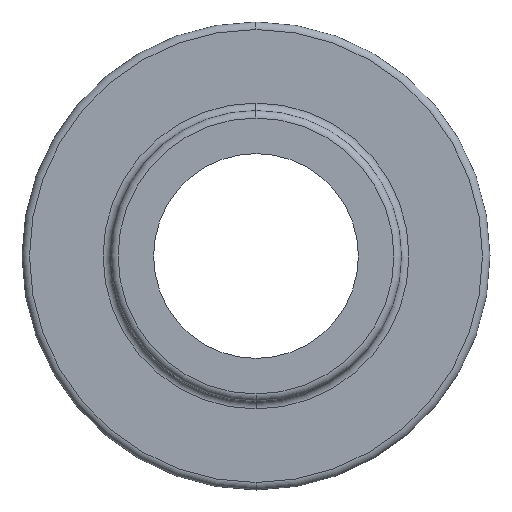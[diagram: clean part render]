
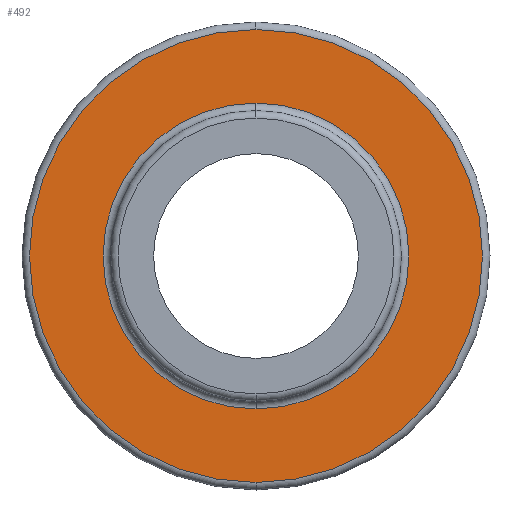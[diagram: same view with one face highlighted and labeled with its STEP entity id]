
A CAD part, left-side view. The second image highlights one B-rep face of the part: STEP entity #492.
In plain terms, the highlighted planar face has unit normal (-1, 0, 0).
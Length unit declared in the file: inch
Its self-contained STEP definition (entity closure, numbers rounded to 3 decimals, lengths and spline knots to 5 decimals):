
#3 = EDGE_CURVE ( 'NONE', #172, #736, #515, .T. ) ;
#11 = AXIS2_PLACEMENT_3D ( 'NONE', #166, #673, #446 ) ;
#14 = DIRECTION ( 'NONE',  ( 0., 0., -1. ) ) ;
#20 = DIRECTION ( 'NONE',  ( 1., 0., 0. ) ) ;
#42 = ORIENTED_EDGE ( 'NONE', *, *, #620, .F. ) ;
#81 = CARTESIAN_POINT ( 'NONE',  ( -0.589, 0., 0. ) ) ;
#83 = DIRECTION ( 'NONE',  ( -1., 0., 0. ) ) ;
#90 = PLANE ( 'NONE',  #674 ) ;
#142 = FACE_BOUND ( 'NONE', #358, .T. ) ;
#158 = CARTESIAN_POINT ( 'NONE',  ( -0.589, 0., 0.968 ) ) ;
#166 = CARTESIAN_POINT ( 'NONE',  ( -0.589, 0., 0. ) ) ;
#172 = VERTEX_POINT ( 'NONE', #548 ) ;
#193 = ORIENTED_EDGE ( 'NONE', *, *, #321, .T. ) ;
#202 = EDGE_LOOP ( 'NONE', ( #42, #732 ) ) ;
#230 = CIRCLE ( 'NONE', #685, 0.968 ) ;
#236 = AXIS2_PLACEMENT_3D ( 'NONE', #81, #20, #14 ) ;
#270 = CARTESIAN_POINT ( 'NONE',  ( -0.589, 0.6535, 0. ) ) ;
#279 = CARTESIAN_POINT ( 'NONE',  ( -0.589, 0., 0. ) ) ;
#321 = EDGE_CURVE ( 'NONE', #736, #172, #559, .T. ) ;
#342 = EDGE_CURVE ( 'NONE', #665, #649, #230, .T. ) ;
#347 = CARTESIAN_POINT ( 'NONE',  ( -0.589, 0., -0.6535 ) ) ;
#358 = EDGE_LOOP ( 'NONE', ( #193, #478 ) ) ;
#391 = CARTESIAN_POINT ( 'NONE',  ( -0.589, 0., 0. ) ) ;
#426 = DIRECTION ( 'NONE',  ( 0., 0., 1. ) ) ;
#439 = FACE_OUTER_BOUND ( 'NONE', #202, .T. ) ;
#446 = DIRECTION ( 'NONE',  ( 0., 0., -1. ) ) ;
#478 = ORIENTED_EDGE ( 'NONE', *, *, #3, .T. ) ;
#492 = ADVANCED_FACE ( 'NONE', ( #142, #439 ), #90, .T. ) ;
#507 = DIRECTION ( 'NONE',  ( 0., 0., -1. ) ) ;
#515 = CIRCLE ( 'NONE', #236, 0.6535 ) ;
#548 = CARTESIAN_POINT ( 'NONE',  ( -0.589, 0., 0.6535 ) ) ;
#559 = CIRCLE ( 'NONE', #594, 0.6535 ) ;
#571 = DIRECTION ( 'NONE',  ( 1., 0., 0. ) ) ;
#580 = DIRECTION ( 'NONE',  ( 1., 0., 0. ) ) ;
#594 = AXIS2_PLACEMENT_3D ( 'NONE', #279, #580, #676 ) ;
#620 = EDGE_CURVE ( 'NONE', #649, #665, #632, .T. ) ;
#632 = CIRCLE ( 'NONE', #11, 0.968 ) ;
#649 = VERTEX_POINT ( 'NONE', #733 ) ;
#665 = VERTEX_POINT ( 'NONE', #158 ) ;
#673 = DIRECTION ( 'NONE',  ( 1., 0., 0. ) ) ;
#674 = AXIS2_PLACEMENT_3D ( 'NONE', #270, #83, #426 ) ;
#676 = DIRECTION ( 'NONE',  ( 0., 0., -1. ) ) ;
#685 = AXIS2_PLACEMENT_3D ( 'NONE', #391, #571, #507 ) ;
#732 = ORIENTED_EDGE ( 'NONE', *, *, #342, .F. ) ;
#733 = CARTESIAN_POINT ( 'NONE',  ( -0.589, 0., -0.968 ) ) ;
#736 = VERTEX_POINT ( 'NONE', #347 ) ;
